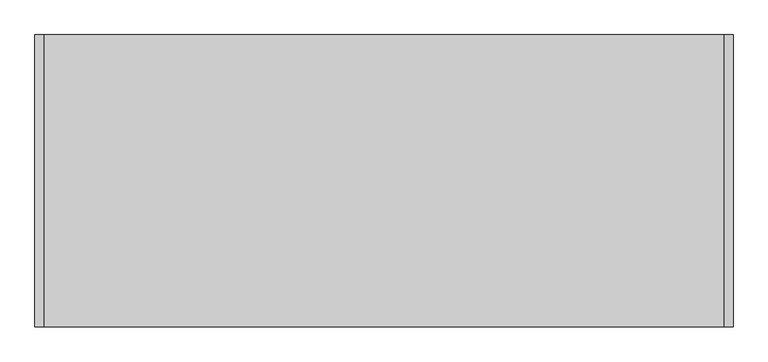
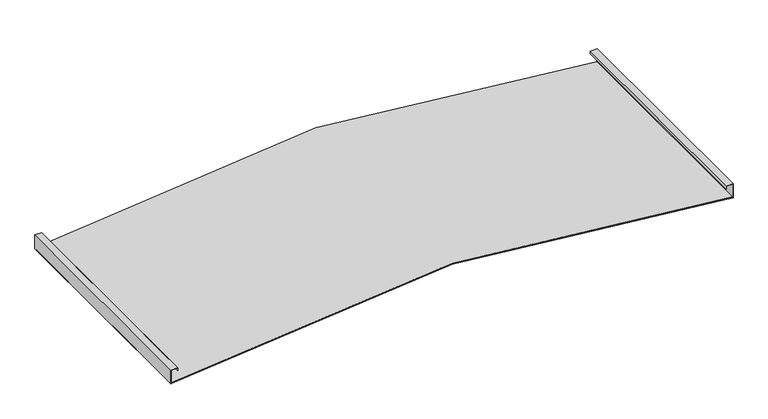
"""IFC4 building model written with IfcOpenShell, lengths in millimetres: proxy geometry, durlum_S7_DOMUS_panel : durlum_S7_DOMUS_panel."""

import ifcopenshell
import ifcopenshell.guid

model = None  # the IFC model being written
_history = None  # IfcOwnerHistory: only IFC2X3 demands one
_inside = {}  # id of a spatial element -> (the spatial element, [elements in it])
_under = {}  # id of a project, library or spatial element -> (it, [spatial elements below it])
_declared = {}  # id of a project -> (the project, [libraries it declares])
_typed = {}  # id of a type object -> (the type object, [elements of that type])
_made_of = {}  # id of a material, layer set ... -> (it, [elements and type objects made of it])


def new_model(schema):
    """Start an empty IFC model of exactly this schema.

    Asked for "IFC4X3", IfcOpenShell would pick the latest addendum, in which some entities
    have other attributes; the version numbers below select the first issue.
    IFC2X3 requires an IfcOwnerHistory on every rooted entity: one is made here for all.
    """
    global model, _history
    if schema == "IFC4X3":
        model = ifcopenshell.file(schema_version=(4, 3, 0, 0))
    else:
        model = ifcopenshell.file(schema=schema)
    _inside.clear()
    _under.clear()
    _declared.clear()
    _typed.clear()
    _made_of.clear()
    _history = None
    if model.schema == "IFC2X3":
        org = make("IfcOrganization", Name="unknown")
        user = make(
            "IfcPersonAndOrganization",
            ThePerson=make("IfcPerson", FamilyName="unknown"),
            TheOrganization=org,
        )
        app = make(
            "IfcApplication",
            ApplicationDeveloper=org,
            Version="unknown",
            ApplicationFullName="unknown",
            ApplicationIdentifier="unknown",
        )
        _history = make(
            "IfcOwnerHistory",
            OwningUser=user,
            OwningApplication=app,
            ChangeAction="ADDED",
            CreationDate=0,
        )
    return model


def make(cls, **values):
    """One entity of the class cls with the attributes given. An attribute that is None is left unset."""
    return model.create_entity(
        cls, **{name: value for name, value in values.items() if value is not None}
    )


def rooted(cls, **values):
    """An entity with a GlobalId (a new one), such as an element, a storey or a relation."""
    return make(cls, GlobalId=ifcopenshell.guid.new(), OwnerHistory=_history, **values)


def si_unit(unit_type, name, prefix=None):
    """IfcSIUnit, for example si_unit("LENGTHUNIT", "METRE", prefix="MILLI")."""
    return make("IfcSIUnit", UnitType=unit_type, Prefix=prefix, Name=name)


def assignment(units):
    """IfcUnitAssignment: the units of a project."""
    return None if units is None else make("IfcUnitAssignment", Units=units)


def point(xyz):
    """IfcCartesianPoint."""
    return None if xyz is None else make("IfcCartesianPoint", Coordinates=xyz)


def direction(xyz):
    """IfcDirection."""
    return None if xyz is None else make("IfcDirection", DirectionRatios=xyz)


def frame(location, z_axis=None, x_axis=None):
    """IfcAxis2Placement3D, a coordinate frame: its origin and axes. An axis left out is left unset."""
    return make(
        "IfcAxis2Placement3D",
        Location=point(location),
        Axis=direction(z_axis),
        RefDirection=direction(x_axis),
    )


def frame_2d(location, x_axis=None):
    """IfcAxis2Placement2D, a coordinate frame in the plane: its origin and x axis."""
    return make(
        "IfcAxis2Placement2D", Location=point(location), RefDirection=direction(x_axis)
    )


def origin():
    """The frame at (0, 0, 0) with its axes left unset."""
    return frame((0.0, 0.0, 0.0))


def place(relative_to, where):
    """IfcLocalPlacement: puts the frame where relative to a parent placement (None: the world)."""
    return make(
        "IfcLocalPlacement", PlacementRelTo=relative_to, RelativePlacement=where
    )


def context(
    kind, dimensions, precision=None, world=None, true_north=None, identifier=None
):
    """IfcGeometricRepresentationContext, for example the 3D "Model" context."""
    return make(
        "IfcGeometricRepresentationContext",
        ContextIdentifier=identifier,
        ContextType=kind,
        CoordinateSpaceDimension=dimensions,
        Precision=precision,
        WorldCoordinateSystem=world,
        TrueNorth=true_north,
    )


def project(units=None, contexts=None):
    """IfcProject with its units and contexts."""
    return rooted(
        "IfcProject",
        Name="project",
        RepresentationContexts=contexts,
        UnitsInContext=assignment(units),
    )


def spatial(cls, under=None, at=None, **own):
    """A site, building, storey or space (cls), placed at a placement, below another one or the project."""
    s = rooted(cls, ObjectPlacement=at, **own)
    if under is not None:
        _under.setdefault(under.id(), (under, []))[1].append(s)
    return s


def polyline(points):
    """IfcPolyline through the points."""
    return make("IfcPolyline", Points=[point(p) for p in points])


def circle_curve(where, radius):
    """IfcCircle in the frame where."""
    return make("IfcCircle", Position=where, Radius=radius)


def trimmed(basis, trim1, trim2, sense, master):
    """IfcTrimmedCurve: the piece of a basis curve between two trims."""
    return make(
        "IfcTrimmedCurve",
        BasisCurve=basis,
        Trim1=trim1,
        Trim2=trim2,
        SenseAgreement=sense,
        MasterRepresentation=master,
    )


def segment(curve, same_sense, transition):
    """IfcCompositeCurveSegment."""
    return make(
        "IfcCompositeCurveSegment",
        Transition=transition,
        SameSense=same_sense,
        ParentCurve=curve,
    )


def composite_curve(segments, self_intersect=None):
    """IfcCompositeCurve: segments joined end to end."""
    return make("IfcCompositeCurve", Segments=segments, SelfIntersect=self_intersect)


def outline(outer, holes=None, kind="AREA"):
    """IfcArbitraryClosedProfileDef: a profile drawn as a closed curve; with holes, ...WithVoids."""
    if holes is None:
        return make("IfcArbitraryClosedProfileDef", ProfileType=kind, OuterCurve=outer)
    return make(
        "IfcArbitraryProfileDefWithVoids",
        ProfileType=kind,
        OuterCurve=outer,
        InnerCurves=holes,
    )


def extrude(swept, where, along, depth):
    """IfcExtrudedAreaSolid: the profile swept, set in the frame where, extruded along a direction by depth."""
    return make(
        "IfcExtrudedAreaSolid",
        SweptArea=swept,
        Position=where,
        ExtrudedDirection=direction(along),
        Depth=depth,
    )


def shape(context_of_items, identifier, shape_type, items):
    """IfcShapeRepresentation: the items that make up one representation, for example the "Body"."""
    return make(
        "IfcShapeRepresentation",
        ContextOfItems=context_of_items,
        RepresentationIdentifier=identifier,
        RepresentationType=shape_type,
        Items=items,
    )


def source(mapping_origin, context_of_items, identifier, shape_type, items):
    """IfcRepresentationMap: a shape defined once, which mapped items show again and again."""
    return make(
        "IfcRepresentationMap",
        MappingOrigin=mapping_origin,
        MappedRepresentation=shape(context_of_items, identifier, shape_type, items),
    )


def transform(
    local_origin,
    x_axis=None,
    y_axis=None,
    z_axis=None,
    scale=None,
    scale2=None,
    scale3=None,
    uniform=True,
):
    """IfcCartesianTransformationOperator3D, or its non-uniform kind. x_axis, y_axis, z_axis: its Axis1, 2, 3."""
    if uniform:
        return make(
            "IfcCartesianTransformationOperator3D",
            Axis1=direction(x_axis),
            Axis2=direction(y_axis),
            LocalOrigin=point(local_origin),
            Scale=scale,
            Axis3=direction(z_axis),
        )
    return make(
        "IfcCartesianTransformationOperator3DnonUniform",
        Axis1=direction(x_axis),
        Axis2=direction(y_axis),
        LocalOrigin=point(local_origin),
        Scale=scale,
        Axis3=direction(z_axis),
        Scale2=scale2,
        Scale3=scale3,
    )


def mapped(mapping_source, mapping_target):
    """IfcMappedItem: shows the shape of a source again, moved by a transform."""
    return make(
        "IfcMappedItem", MappingSource=mapping_source, MappingTarget=mapping_target
    )


def made_of(thing, what):
    """Note that an element or type object is made of a material, layer set ...; save() writes the relation."""
    if what is not None:
        _made_of.setdefault(what.id(), (what, []))[1].append(thing)
    return thing


def element(
    cls,
    number,
    at=None,
    inside=None,
    cuts=None,
    type_object=None,
    material=None,
    context=None,
    identifier="Body",
    shape_type=None,
    held_by="IfcProductDefinitionShape",
    body=None,
    shapes=None,
    **own,
):
    """One element of the class cls, such as IfcWall. Its Tag is "e" and its number.

    at: its placement. inside: the storey or other place that contains it. cuts: it is an
    opening in that element (IfcRelVoidsElement). A single representation is given by context,
    identifier, shape_type and body (its items); several are given by shapes. held_by: the class
    of the entity that holds the representations. save() writes the other relations.
    """
    e = rooted(cls, Tag="e%d" % number, ObjectPlacement=at, **own)
    if body is not None:
        shapes = [shape(context, identifier, shape_type, body)]
    if shapes is not None:
        e.Representation = make(held_by, Representations=shapes)
    if inside is not None:
        _inside.setdefault(inside.id(), (inside, []))[1].append(e)
    if cuts is not None:
        rooted(
            "IfcRelVoidsElement", RelatingBuildingElement=cuts, RelatedOpeningElement=e
        )
    if type_object is not None:
        _typed.setdefault(type_object.id(), (type_object, []))[1].append(e)
    return made_of(e, material)


def aggregate(whole, parts):
    """IfcRelAggregates: a whole, such as a stair, and the parts it consists of."""
    return rooted("IfcRelAggregates", RelatingObject=whole, RelatedObjects=parts)


def save(model, path):
    """Write the relations noted so far, then the file.

    IfcRelAggregates (storeys below a building ...), IfcRelContainedInSpatialStructure (elements
    in a storey), IfcRelDefinesByType, IfcRelAssociatesMaterial and IfcRelDeclares: one each for
    every whole, place, type object, material and project.
    """
    for whole, parts in _under.values():
        aggregate(whole, parts)
    for where, things in _inside.values():
        rooted(
            "IfcRelContainedInSpatialStructure",
            RelatedElements=things,
            RelatingStructure=where,
        )
    for kind, things in _typed.values():
        rooted("IfcRelDefinesByType", RelatedObjects=things, RelatingType=kind)
    for what, things in _made_of.values():
        rooted("IfcRelAssociatesMaterial", RelatedObjects=things, RelatingMaterial=what)
    for by, libraries in _declared.values():
        rooted("IfcRelDeclares", RelatingContext=by, RelatedDefinitions=libraries)
    model.write(path)


def generic_models_cf1b64cc(model_context):
    return source(origin(), model_context, "Body", "SweptSolid", [
        extrude(outline(composite_curve([segment(trimmed(circle_curve(frame_2d((-2930.1333333, 0.0)), 2991.1333333), [point((1.2236251, -595.0))], [point((1.2236251, 595.0))], True, "CARTESIAN"), True, "CONTINUOUS"), segment(polyline([(1.2236251, 595.0), (2.2440101, 595.0)]), True, "CONTINUOUS"), segment(trimmed(circle_curve(frame_2d((-2930.1333333, 0.0)), 2992.1333333), [point((2.2440101, 595.0))], [point((2.2440101, -595.0))], False, "CARTESIAN"), True, "CONTINUOUS"), segment(polyline([(2.2440101, -595.0), (1.2236251, -595.0)]), True, "CONTINUOUS")], self_intersect=False)), frame((0.0, -249.75, 0.0), z_axis=(0.0, 1.0, 0.0), x_axis=(0.0, 0.0, 1.0)), (0.0, 0.0, 1.0), 499.5),
        extrude(outline(polyline([(31.0, -596.0), (0.0, -596.0), (0.0, -595.0), (30.0, -595.0), (30.0, -582.0), (24.5, -582.0), (24.5, -581.0), (31.0, -581.0), (31.0, -596.0)])), frame((0.0, -249.75, 0.0), z_axis=(0.0, 1.0, 0.0), x_axis=(0.0, 0.0, 1.0)), (0.0, 0.0, 1.0), 499.5),
        extrude(outline(polyline([(31.0, 596.0), (31.0, 581.0), (24.5, 581.0), (24.5, 582.0), (30.0, 582.0), (30.0, 595.0), (0.0, 595.0), (0.0, 596.0), (31.0, 596.0)])), frame((0.0, -249.75, 0.0), z_axis=(0.0, 1.0, 0.0), x_axis=(0.0, 0.0, 1.0)), (0.0, 0.0, 1.0), 499.5),
        extrude(outline(composite_curve([segment(polyline([(1.0204698, -596.0), (0.0, -596.0)]), True, "CONTINUOUS"), segment(trimmed(circle_curve(frame_2d((-2930.1333333, 0.0)), 2990.1333333), [point((0.0, -596.0))], [point((0.0, 596.0))], True, "CARTESIAN"), True, "CONTINUOUS"), segment(polyline([(0.0, 596.0), (1.0204698, 596.0)]), True, "CONTINUOUS"), segment(trimmed(circle_curve(frame_2d((-2930.1333333, 0.0)), 2991.1333333), [point((1.0204698, 596.0))], [point((1.0204698, -596.0))], False, "CARTESIAN"), True, "CONTINUOUS")], self_intersect=False)), frame((0.0, -249.75, 0.0), z_axis=(0.0, 1.0, 0.0), x_axis=(0.0, 0.0, 1.0)), (0.0, 0.0, 1.0), 499.5),
    ])


if __name__ == "__main__":
    model = new_model("IFC4")
    model_context = context("Model", 3, world=origin())
    ifc_project = project(units=[si_unit("LENGTHUNIT", "METRE", prefix="MILLI")], contexts=[model_context])
    site = spatial("IfcSite", under=ifc_project)
    building = spatial("IfcBuilding", under=site)
    placement = place(None, origin())
    generic_models_shape = generic_models_cf1b64cc(model_context)
    element("IfcBuildingElementProxy", 1, Name="durlum_S7_DOMUS_panel : durlum_S7_DOMUS_panel", ObjectType="durlum_S7_DOMUS_panel : durlum_S7_DOMUS_panel", at=placement, inside=building, context=model_context, shape_type="MappedRepresentation", body=[
        mapped(generic_models_shape, transform((0.0, 0.0, 0.0), x_axis=(1.0, 0.0, 0.0), y_axis=(0.0, 1.0, 0.0), z_axis=(0.0, 0.0, 1.0))),
    ])
    save(model, "model.ifc")
